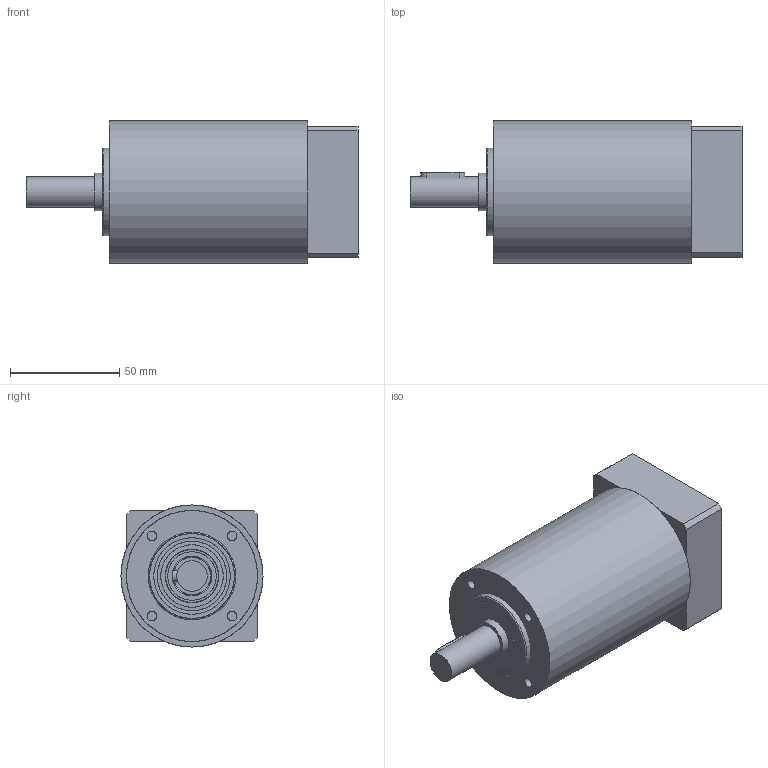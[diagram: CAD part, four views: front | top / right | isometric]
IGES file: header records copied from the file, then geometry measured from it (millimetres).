
Global section: file name: D:\ASSYCONF\WORK_DIRS\TEMP_#6\E00017964713MP040509091945_iges3D.igs; native system: NX V5.0; preprocessor: UGS NX IGES V5.0; date: 20090504.092149; units: millimetre
Bounding box: 151.95 x 65 x 65 mm (x, y, z)
Surface area: 78580.1 mm2 (no closed solid volume)
Topology: 0 solids, 0 shells, 139 faces, 2608 edges, 2532 vertices
Faces by surface type: revolution 89, extrusion 50
